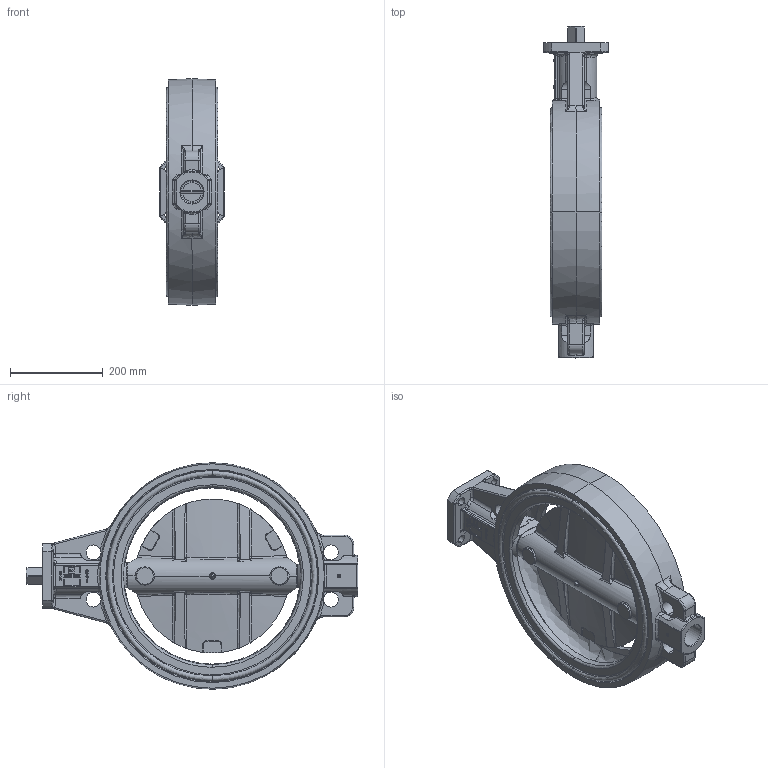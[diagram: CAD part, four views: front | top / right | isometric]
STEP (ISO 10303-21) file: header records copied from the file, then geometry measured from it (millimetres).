
FILE_DESCRIPTION (( 'STEP AP203' ), '1' );
FILE_NAME ('4831070_Axel-Larsson.step', '2023-10-04T13:35:43', ( '' ), ( '' ), 'SwSTEP 2.0', 'SolidWorks 2014', '' );
FILE_SCHEMA (( 'CONFIG_CONTROL_DESIGN' ));
Length unit declared in the file: millimetre
Products named in the file (1): 4831070_Axel-Larsson
Bounding box: 140 x 715 x 488 mm (x, y, z)
Volume: 8135917.1 mm3; surface area: 1341209.8 mm2
Topology: 24 solids, 24 shells, 1327 faces, 3421 edges, 2121 vertices
Faces by surface type: bspline 438, plane 373, cylinder 320, cone 196
Entity records: 74773 total; most frequent: CARTESIAN_POINT 45737, ORIENTED_EDGE 6738, DIRECTION 5093, EDGE_CURVE 3369, VERTEX_POINT 2121, AXIS2_PLACEMENT_3D 1975, EDGE_LOOP 1426, FACE_OUTER_BOUND 1327
